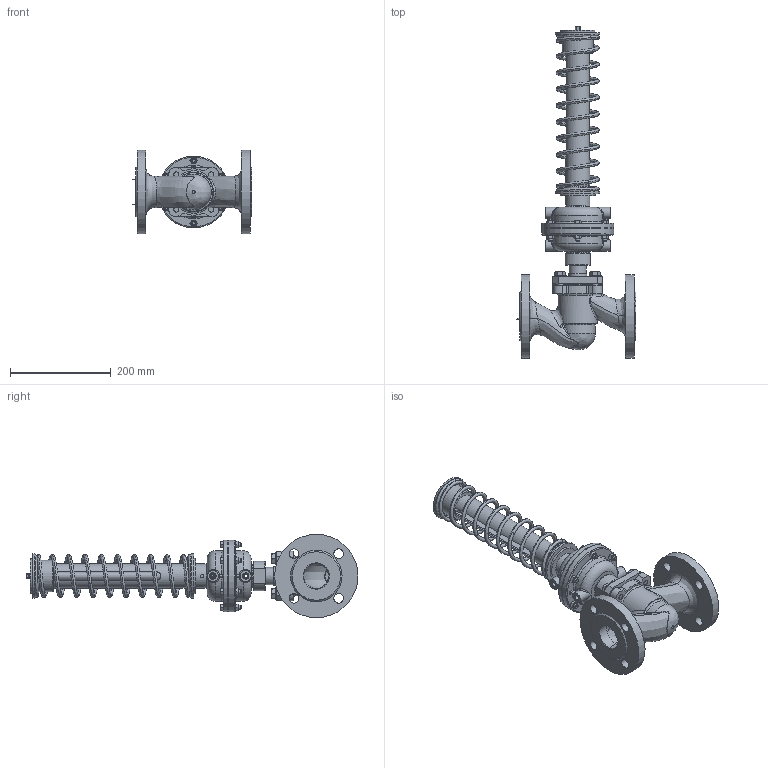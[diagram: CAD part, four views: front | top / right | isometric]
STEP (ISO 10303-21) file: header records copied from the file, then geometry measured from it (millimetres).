
FILE_DESCRIPTION(('STEP AP203'), '1');
FILE_NAME('PA_50-íåðàçáîðíûé.stp', '2017-07-14T08:45:29', ('UNSPECIFIED'), ('UNSPECIFIED'), 'ASCON STEP Converter 1.0', 'Kompas 3D', '');
FILE_SCHEMA(('CONFIG_CONTROL_DESIGN'));
Length unit declared in the file: millimetre
Products named in the file (1): 12
Bounding box: 236.76 x 657.5 x 165 mm (x, y, z)
Volume: 2178531.7 mm3; surface area: 579000.2 mm2
Topology: 4 solids, 4 shells, 690 faces, 1594 edges, 988 vertices
Faces by surface type: plane 249, cylinder 180, bspline 116, cone 88, torus 54, sphere 3
Full cylindrical faces by diameter (mm): 2 x1, 4 x1, 6.5 x1, 7 x4, 8 x6, 10 x1, 10.5 x8, 11 x2, 12 x7, 13 x4, 13.7 x1, 14 x5, 14.5 x2, 15 x3, 16 x1, 17 x1, 19 x8, 20 x6, 22 x4, 24 x4, 28 x1, 30 x2, 31.5 x1, 34 x2, 36 x1, 39.5 x1, 41 x1, 42 x3, 46 x2, 48 x4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
Entity records: 52545 total; most frequent: CARTESIAN_POINT 37808, ORIENTED_EDGE 3186, DIRECTION 2716, EDGE_CURVE 1593, AXIS2_PLACEMENT_3D 1092, VERTEX_POINT 988, EDGE_LOOP 819, ADVANCED_FACE 690
